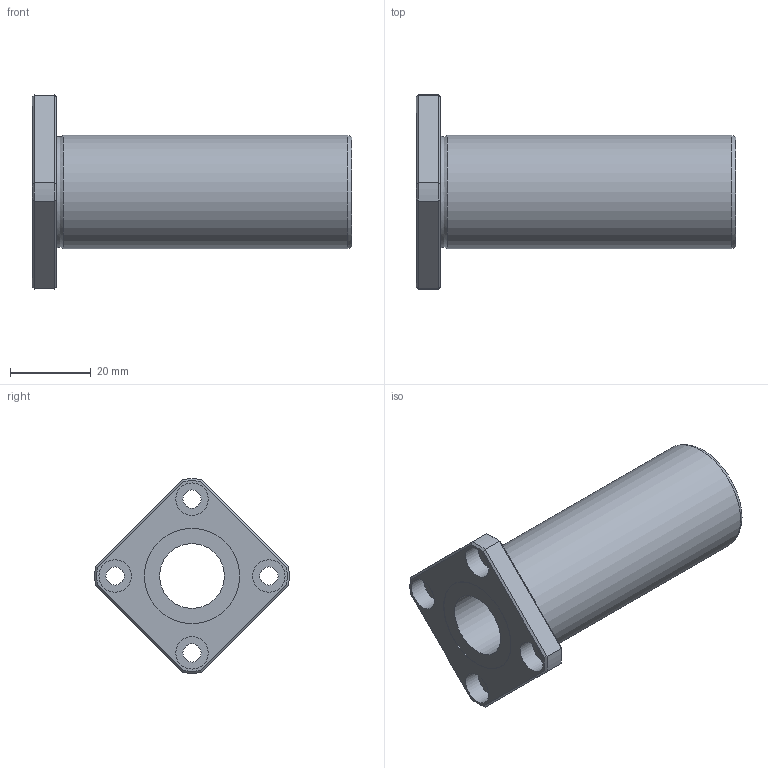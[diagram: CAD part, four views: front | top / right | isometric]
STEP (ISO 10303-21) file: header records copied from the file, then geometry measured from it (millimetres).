
FILE_DESCRIPTION((''),'2;1');
FILE_NAME('D:\製品 (図面)\カタログ用3D\メンテナンスフリー関連\STEP形式\LFDK-MF\LFDK16MF.stp','2010-06-01T15:43:30',('Tsuchiya'),(''),'Autodesk Inventor 10','Autodesk Inventor 10','');
FILE_SCHEMA(('AUTOMOTIVE_DESIGN { 1 0 10303 214 1 1 1 1 }'));
Length unit declared in the file: millimetre
Products named in the file (1): LFDK16MF
Bounding box: 79 x 47.98 x 47.98 mm (x, y, z)
Volume: 36045.7 mm3; surface area: 13849.3 mm2
Topology: 1 solids, 1 shells, 47 faces, 96 edges, 58 vertices
Faces by surface type: plane 21, cylinder 16, cone 8, torus 1, bspline 1
Full cylindrical faces by diameter (mm): 4.5 x4, 8 x4, 16 x1, 23.5 x2, 28 x1
Entity records: 1275 total; most frequent: CARTESIAN_POINT 298, DIRECTION 202, ORIENTED_EDGE 164, AXIS2_PLACEMENT_3D 89, EDGE_CURVE 82, EDGE_LOOP 78, VERTEX_POINT 58, FACE_OUTER_BOUND 47
